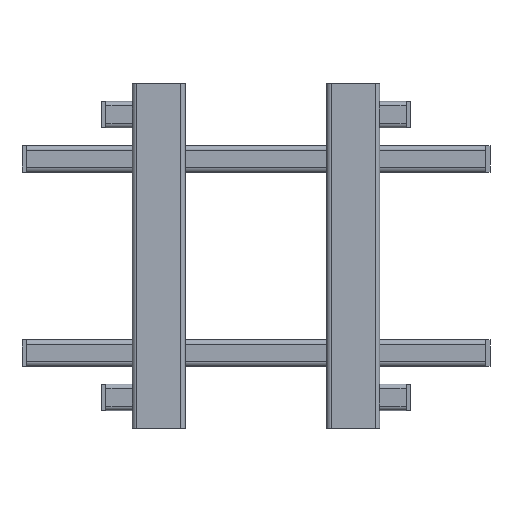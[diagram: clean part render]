
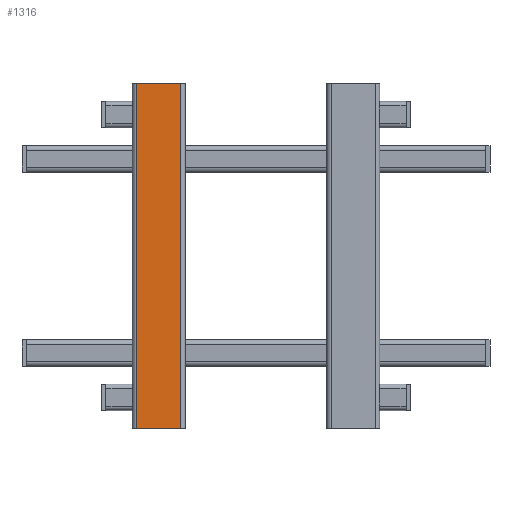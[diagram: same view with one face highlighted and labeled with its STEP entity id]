
A CAD part, front view. The second image highlights one B-rep face of the part: STEP entity #1316.
In plain terms, the highlighted planar face has unit normal (0, -1, 0).
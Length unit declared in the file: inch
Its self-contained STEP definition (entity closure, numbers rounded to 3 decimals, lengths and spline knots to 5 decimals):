
#126=PLANE('',#1499);
#176=FACE_OUTER_BOUND('',#247,.T.);
#247=EDGE_LOOP('',(#978,#979,#980,#981));
#380=LINE('',#2095,#508);
#386=LINE('',#2114,#514);
#387=LINE('',#2117,#515);
#388=LINE('',#2118,#516);
#508=VECTOR('',#1676,0.3937);
#514=VECTOR('',#1696,0.3937);
#515=VECTOR('',#1699,0.3937);
#516=VECTOR('',#1700,0.3937);
#638=VERTEX_POINT('',#2092);
#639=VERTEX_POINT('',#2094);
#645=VERTEX_POINT('',#2112);
#646=VERTEX_POINT('',#2116);
#766=EDGE_CURVE('',#638,#639,#380,.T.);
#776=EDGE_CURVE('',#645,#638,#386,.T.);
#777=EDGE_CURVE('',#646,#645,#387,.T.);
#778=EDGE_CURVE('',#646,#639,#388,.T.);
#978=ORIENTED_EDGE('',*,*,#776,.F.);
#979=ORIENTED_EDGE('',*,*,#777,.F.);
#980=ORIENTED_EDGE('',*,*,#778,.T.);
#981=ORIENTED_EDGE('',*,*,#766,.F.);
#1316=ADVANCED_FACE('',(#176),#126,.T.);
#1499=AXIS2_PLACEMENT_3D('',#2115,#1697,#1698);
#1676=DIRECTION('',(-1.,0.,0.));
#1696=DIRECTION('',(0.,0.,-1.));
#1697=DIRECTION('center_axis',(0.,-1.,0.));
#1698=DIRECTION('ref_axis',(1.,0.,0.));
#1699=DIRECTION('',(1.,0.,0.));
#1700=DIRECTION('',(0.,0.,-1.));
#2092=CARTESIAN_POINT('',(2.5,-1.5,-19.5));
#2094=CARTESIAN_POINT('',(-2.5,-1.5,-19.5));
#2095=CARTESIAN_POINT('',(2.5,-1.5,-19.5));
#2112=CARTESIAN_POINT('',(2.5,-1.5,19.5));
#2114=CARTESIAN_POINT('',(2.5,-1.5,0.));
#2115=CARTESIAN_POINT('Origin',(-2.5,-1.5,0.));
#2116=CARTESIAN_POINT('',(-2.5,-1.5,19.5));
#2117=CARTESIAN_POINT('',(2.5,-1.5,19.5));
#2118=CARTESIAN_POINT('',(-2.5,-1.5,0.));
